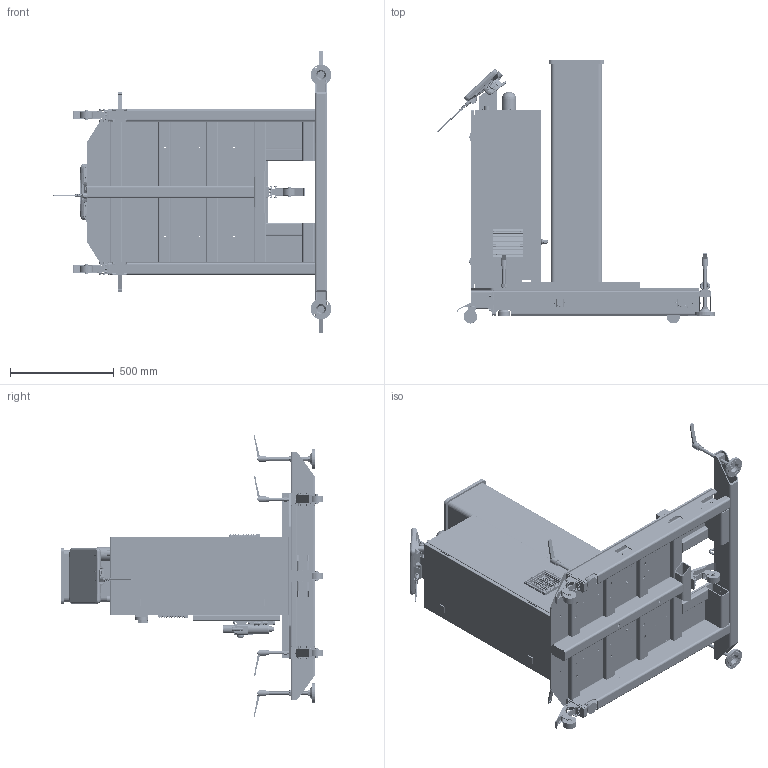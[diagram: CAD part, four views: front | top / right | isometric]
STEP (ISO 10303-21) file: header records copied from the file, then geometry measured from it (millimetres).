
FILE_DESCRIPTION (( 'STEP AP203' ), '1' );
FILE_NAME ('码垛工作站(移动底盘+固定立柱)V2.0-20260511.STEP', '2026-05-11T05:36:31', ( '' ), ( '' ), 'SwSTEP 2.0', 'SolidWorks 2018', '' );
FILE_SCHEMA (( 'CONFIG_CONTROL_DESIGN' ));
Products named in the file (2): 码垛工作站(移动底盘+固定立柱)V2.0-20260511
Bounding box: 1344.83 x 1268.5 x 1358 mm (x, y, z)
Surface area: 13488951.2 mm2 (no closed solid volume)
Topology: 0 solids, 334 shells, 15041 faces, 39590 edges, 25354 vertices
Faces by surface type: plane 8621, cylinder 3699, bspline 1276, cone 1248, torus 169, sphere 28
Entity records: 592033 total; most frequent: CARTESIAN_POINT 240182, ORIENTED_EDGE 78438, DIRECTION 63884, EDGE_CURVE 39318, VERTEX_POINT 25342, AXIS2_PLACEMENT_3D 21364, LINE 21156, VECTOR 21156
